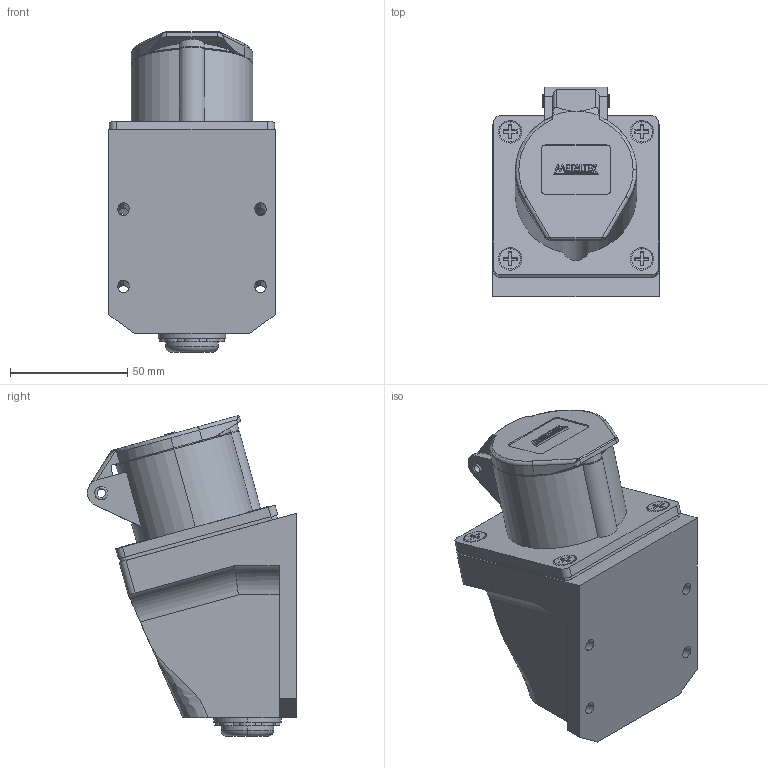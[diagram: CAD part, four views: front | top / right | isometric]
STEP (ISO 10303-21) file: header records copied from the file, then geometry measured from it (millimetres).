
FILE_DESCRIPTION (( 'STEP AP203' ), '1' );
FILE_NAME ('TLS16432..STEP', '2018-04-20T14:15:50', ( '' ), ( '' ), 'SwSTEP 2.0', 'SolidWorks 2012', '' );
FILE_SCHEMA (( 'CONFIG_CONTROL_DESIGN' ));
Length unit declared in the file: millimetre
Products named in the file (6): TLS16432.; TLS16432; TLR16432; METALTEX 18,98; TL
Assembly tree (5 placements, depth 4):
  TLS16432.
    TLS16432
      TL
      TLR16432
        TLR16432
        METALTEX 18,98
Bounding box: 71 x 89.46 x 136.84 mm (x, y, z)
Volume: 413260.1 mm3; surface area: 57508.5 mm2
Topology: 9 solids, 9 shells, 528 faces, 1328 edges, 867 vertices
Faces by surface type: plane 309, cylinder 178, torus 19, cone 18, bspline 4
Entity records: 16986 total; most frequent: CARTESIAN_POINT 3472, DIRECTION 2697, ORIENTED_EDGE 2648, EDGE_CURVE 1324, AXIS2_PLACEMENT_3D 903, VECTOR 891, LINE 891, VERTEX_POINT 867
